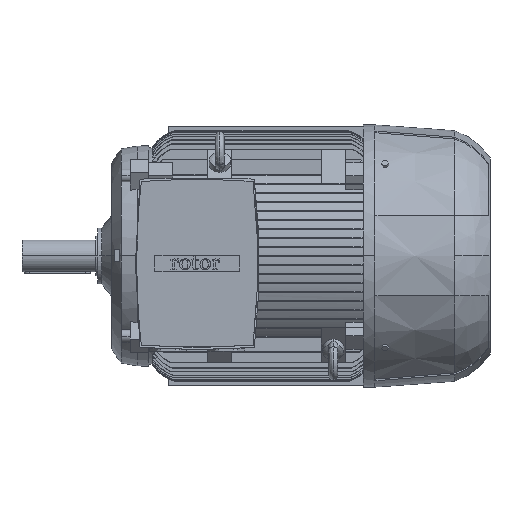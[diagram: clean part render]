
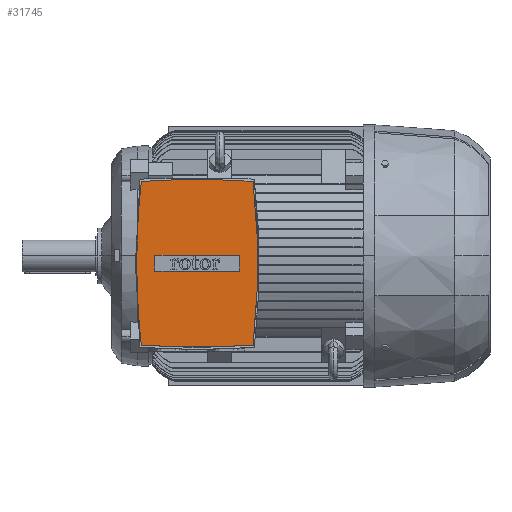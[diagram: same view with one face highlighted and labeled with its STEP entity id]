
A CAD part, top view. The second image highlights one B-rep face of the part: STEP entity #31745.
In plain terms, the highlighted planar face has unit normal (0, 0, 1).
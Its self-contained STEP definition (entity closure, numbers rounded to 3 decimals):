
#1199 = DIRECTION ( 'NONE',  ( -1., 0., 0. ) ) ;
#2842 = CARTESIAN_POINT ( 'NONE',  ( -13.904, -169.6, 410. ) ) ;
#3757 = PLANE ( 'NONE',  #42204 ) ;
#3944 = DIRECTION ( 'NONE',  ( 1., 0., 0. ) ) ;
#5250 = LINE ( 'NONE', #49039, #51377 ) ;
#5684 = DIRECTION ( 'NONE',  ( 0., 0., -1. ) ) ;
#6772 = ORIENTED_EDGE ( 'NONE', *, *, #35901, .T. ) ;
#8267 = ORIENTED_EDGE ( 'NONE', *, *, #36500, .F. ) ;
#11225 = CARTESIAN_POINT ( 'NONE',  ( 197.904, 140.6, 410. ) ) ;
#13880 = CARTESIAN_POINT ( 'NONE',  ( 92., -29.5, 410. ) ) ;
#14002 = DIRECTION ( 'NONE',  ( 0., 0., -1. ) ) ;
#15493 = LINE ( 'NONE', #13880, #33660 ) ;
#17076 = CARTESIAN_POINT ( 'NONE',  ( 12., 0.5, 410. ) ) ;
#18150 = CARTESIAN_POINT ( 'NONE',  ( 92., -1295.44, 410. ) ) ;
#22153 = VERTEX_POINT ( 'NONE', #11225 ) ;
#22182 = ORIENTED_EDGE ( 'NONE', *, *, #27224, .F. ) ;
#22580 = DIRECTION ( 'NONE',  ( -1., 0., 0. ) ) ;
#23910 = DIRECTION ( 'NONE',  ( 0., 0., -1. ) ) ;
#24573 = ORIENTED_EDGE ( 'NONE', *, *, #36143, .T. ) ;
#25204 = ORIENTED_EDGE ( 'NONE', *, *, #36331, .F. ) ;
#25330 = CARTESIAN_POINT ( 'NONE',  ( 92., 0.5, 410. ) ) ;
#26350 = CARTESIAN_POINT ( 'NONE',  ( 92., -14.5, 410. ) ) ;
#26878 = VECTOR ( 'NONE', #29774, 1000. ) ;
#27224 = EDGE_CURVE ( 'NONE', #36692, #51852, #51632, .T. ) ;
#27700 = AXIS2_PLACEMENT_3D ( 'NONE', #54063, #28108, #1199 ) ;
#28108 = DIRECTION ( 'NONE',  ( 0., 0., -1. ) ) ;
#29774 = DIRECTION ( 'NONE',  ( 1., 0., 0. ) ) ;
#30741 = DIRECTION ( 'NONE',  ( 0., 0., 1. ) ) ;
#31696 = DIRECTION ( 'NONE',  ( -1., 0., 0. ) ) ;
#31745 = ADVANCED_FACE ( 'NONE', ( #45238, #45350 ), #3757, .T. ) ;
#32362 = CARTESIAN_POINT ( 'NONE',  ( 92., 1266.44, 410. ) ) ;
#33108 = CIRCLE ( 'NONE', #44352, 1439.94 ) ;
#33660 = VECTOR ( 'NONE', #31696, 1000. ) ;
#33929 = DIRECTION ( 'NONE',  ( 0., -1., 0. ) ) ;
#34503 = ORIENTED_EDGE ( 'NONE', *, *, #36323, .F. ) ;
#35831 = EDGE_CURVE ( 'NONE', #46205, #44697, #15493, .T. ) ;
#35901 = EDGE_CURVE ( 'NONE', #44697, #41707, #5250, .T. ) ;
#36143 = EDGE_CURVE ( 'NONE', #41707, #38590, #39739, .T. ) ;
#36151 = EDGE_CURVE ( 'NONE', #38590, #46205, #49888, .T. ) ;
#36323 = EDGE_CURVE ( 'NONE', #53598, #22153, #33108, .T. ) ;
#36331 = EDGE_CURVE ( 'NONE', #51852, #53598, #40404, .T. ) ;
#36481 = EDGE_CURVE ( 'NONE', #42372, #36692, #43596, .T. ) ;
#36500 = EDGE_CURVE ( 'NONE', #22153, #42372, #39590, .T. ) ;
#36645 = DIRECTION ( 'NONE',  ( -1., 0., 0. ) ) ;
#36692 = VERTEX_POINT ( 'NONE', #2842 ) ;
#37414 = CARTESIAN_POINT ( 'NONE',  ( 172., -29.5, 410. ) ) ;
#38590 = VERTEX_POINT ( 'NONE', #53159 ) ;
#38680 = ORIENTED_EDGE ( 'NONE', *, *, #36481, .F. ) ;
#39590 = CIRCLE ( 'NONE', #42837, 1403.6 ) ;
#39739 = LINE ( 'NONE', #25330, #26878 ) ;
#40172 = CARTESIAN_POINT ( 'NONE',  ( 1381.1, -14.5, 410. ) ) ;
#40404 = CIRCLE ( 'NONE', #44255, 1403.6 ) ;
#41377 = CARTESIAN_POINT ( 'NONE',  ( -13.904, 140.6, 410. ) ) ;
#41707 = VERTEX_POINT ( 'NONE', #17076 ) ;
#42204 = AXIS2_PLACEMENT_3D ( 'NONE', #26350, #30741, #3944 ) ;
#42372 = VERTEX_POINT ( 'NONE', #49144 ) ;
#42837 = AXIS2_PLACEMENT_3D ( 'NONE', #49900, #23910, #54288 ) ;
#42865 = VECTOR ( 'NONE', #33929, 1000. ) ;
#43298 = CARTESIAN_POINT ( 'NONE',  ( 12., -29.5, 410. ) ) ;
#43596 = CIRCLE ( 'NONE', #43601, 1439.94 ) ;
#43601 = AXIS2_PLACEMENT_3D ( 'NONE', #32362, #5684, #36645 ) ;
#44255 = AXIS2_PLACEMENT_3D ( 'NONE', #40172, #14002, #44578 ) ;
#44352 = AXIS2_PLACEMENT_3D ( 'NONE', #18150, #48600, #22580 ) ;
#44578 = DIRECTION ( 'NONE',  ( -1., 0., 0. ) ) ;
#44697 = VERTEX_POINT ( 'NONE', #43298 ) ;
#45026 = ORIENTED_EDGE ( 'NONE', *, *, #36151, .T. ) ;
#45190 = EDGE_LOOP ( 'NONE', ( #24573, #45026, #46913, #6772 ) ) ;
#45238 = FACE_OUTER_BOUND ( 'NONE', #53418, .T. ) ;
#45350 = FACE_BOUND ( 'NONE', #45190, .T. ) ;
#46205 = VERTEX_POINT ( 'NONE', #37414 ) ;
#46913 = ORIENTED_EDGE ( 'NONE', *, *, #35831, .T. ) ;
#48600 = DIRECTION ( 'NONE',  ( 0., 0., -1. ) ) ;
#49039 = CARTESIAN_POINT ( 'NONE',  ( 12., -14.5, 410. ) ) ;
#49144 = CARTESIAN_POINT ( 'NONE',  ( 197.904, -169.6, 410. ) ) ;
#49888 = LINE ( 'NONE', #55485, #42865 ) ;
#49900 = CARTESIAN_POINT ( 'NONE',  ( -1197.1, -14.5, 410. ) ) ;
#51377 = VECTOR ( 'NONE', #53604, 1000. ) ;
#51632 = CIRCLE ( 'NONE', #27700, 1403.6 ) ;
#51852 = VERTEX_POINT ( 'NONE', #54528 ) ;
#53159 = CARTESIAN_POINT ( 'NONE',  ( 172., 0.5, 410. ) ) ;
#53418 = EDGE_LOOP ( 'NONE', ( #34503, #25204, #22182, #38680, #8267 ) ) ;
#53598 = VERTEX_POINT ( 'NONE', #41377 ) ;
#53604 = DIRECTION ( 'NONE',  ( 0., 1., 0. ) ) ;
#54063 = CARTESIAN_POINT ( 'NONE',  ( 1381.1, -14.5, 410. ) ) ;
#54288 = DIRECTION ( 'NONE',  ( -1., 0., 0. ) ) ;
#54528 = CARTESIAN_POINT ( 'NONE',  ( -22.5, -14.5, 410. ) ) ;
#55485 = CARTESIAN_POINT ( 'NONE',  ( 172., -14.5, 410. ) ) ;
